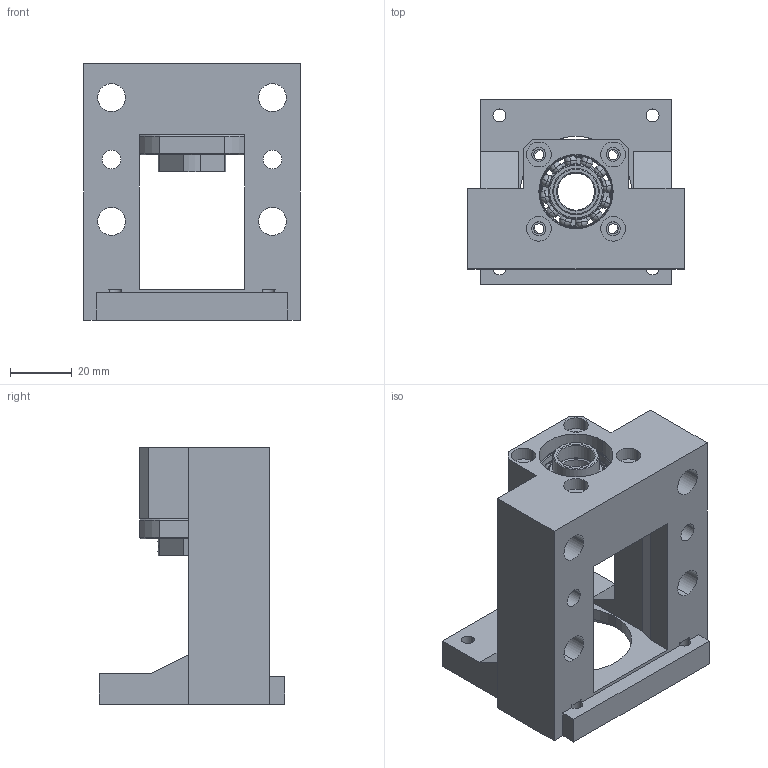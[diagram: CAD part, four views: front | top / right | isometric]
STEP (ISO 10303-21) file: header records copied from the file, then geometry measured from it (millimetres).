
FILE_DESCRIPTION((''),'2;1');
FILE_NAME('M60D-EK12-C_ASM','2018-06-28T',('ASUS'),(''),'PRO/ENGINEER BY PARAMETRIC TECHNOLOGY CORPORATION, 2010280','PRO/ENGINEER BY PARAMETRIC TECHNOLOGY CORPORATION, 2010280','');
FILE_SCHEMA(('CONFIG_CONTROL_DESIGN'));
Length unit declared in the file: millimetre
Products named in the file (21): MANIFOLD_SOLID_BREP_661; MANIFOLD_SOLID_BREP_662; MANIFOLD_SOLID_BREP_663; MANIFOLD_SOLID_BREP_664; MANIFOLD_SOLID_BREP_665; MANIFOLD_SOLID_BREP_666; MANIFOLD_SOLID_BREP_667; MANIFOLD_SOLID_BREP_668; MANIFOLD_SOLID_BREP_669; MANIFOLD_SOLID_BREP_670; MANIFOLD_SOLID_BREP_671; MANIFOLD_SOLID_BREP_672; MANIFOLD_SOLID_BREP_673; MANIFOLD_SOLID_BREP_674; 7001A_ASM; MBCB12-D_-02; MBCB12-D-03; MBCB12-D-04; MANIFOLD_SOLID_BREP_659; MBCE12-D-00_ASM; M60D-EK12-C_ASM
Assembly tree (22 placements, depth 4):
  M60D-EK12-C_ASM
    MBCE12-D-00_ASM
      7001A_ASM  x2
        MANIFOLD_SOLID_BREP_661
        MANIFOLD_SOLID_BREP_662
        MANIFOLD_SOLID_BREP_663
        MANIFOLD_SOLID_BREP_664
        MANIFOLD_SOLID_BREP_665
        MANIFOLD_SOLID_BREP_666
        MANIFOLD_SOLID_BREP_667
        MANIFOLD_SOLID_BREP_668
        MANIFOLD_SOLID_BREP_669
        MANIFOLD_SOLID_BREP_670
        MANIFOLD_SOLID_BREP_671
        MANIFOLD_SOLID_BREP_672
        MANIFOLD_SOLID_BREP_673
        MANIFOLD_SOLID_BREP_674
      MBCB12-D_-02
      MBCB12-D-03  x2
      MBCB12-D-04
      MANIFOLD_SOLID_BREP_659
Bounding box: 70 x 60 x 83 mm (x, y, z)
Volume: 109459.2 mm3; surface area: 44769.3 mm2
Topology: 33 solids, 33 shells, 407 faces, 1112 edges, 686 vertices
Faces by surface type: cylinder 106, sphere 96, torus 80, plane 77, cone 48
Entity records: 9577 total; most frequent: DIRECTION 1848, CARTESIAN_POINT 1695, ORIENTED_EDGE 1436, AXIS2_PLACEMENT_3D 805, EDGE_CURVE 718, VERTEX_POINT 484, CIRCLE 460, EDGE_LOOP 346
